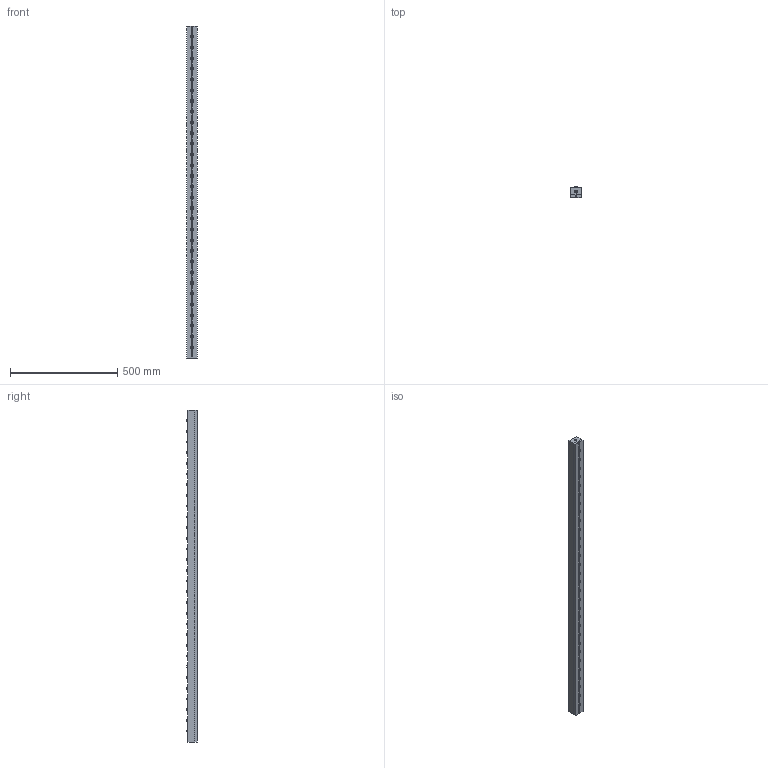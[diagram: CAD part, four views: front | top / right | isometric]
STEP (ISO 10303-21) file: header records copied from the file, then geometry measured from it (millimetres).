
FILE_DESCRIPTION (( 'STEP AP203' ), '1' );
FILE_NAME ('PVL55SH-30.STEP', '2016-02-18T09:01:44', ( '' ), ( '' ), 'SwSTEP 2.0', 'SolidWorks 2013', '' );
FILE_SCHEMA (( 'CONFIG_CONTROL_DESIGN' ));
Length unit declared in the file: millimetre
Products named in the file (1): PVL55SH-30
Bounding box: 49 x 50 x 1550 mm (x, y, z)
Volume: 3290305.3 mm3; surface area: 527084.1 mm2
Topology: 2 solids, 2 shells, 1273 faces, 2740 edges, 1835 vertices
Faces by surface type: cylinder 738, plane 471, sphere 60, cone 4
Entity records: 35575 total; most frequent: DIRECTION 7006, CARTESIAN_POINT 5847, ORIENTED_EDGE 5476, AXIS2_PLACEMENT_3D 2994, EDGE_CURVE 2738, VERTEX_POINT 1835, CIRCLE 1720, EDGE_LOOP 1647
